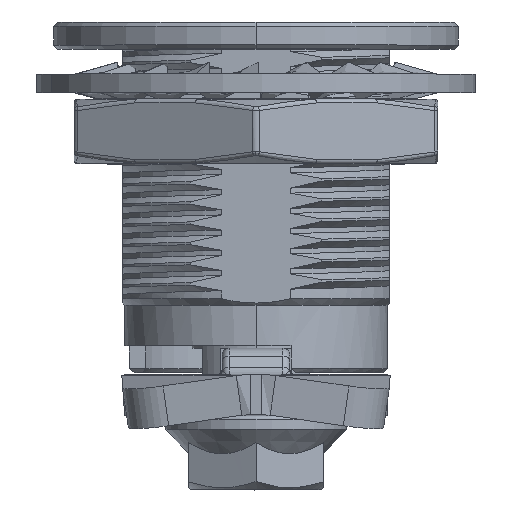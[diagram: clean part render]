
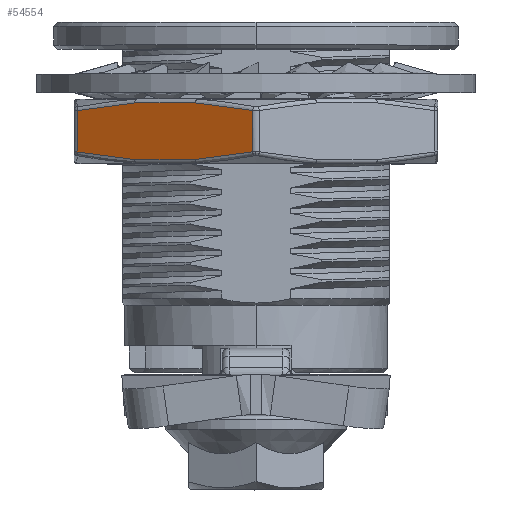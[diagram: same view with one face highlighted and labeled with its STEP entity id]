
A CAD part, top view. The second image highlights one B-rep face of the part: STEP entity #54554.
In plain terms, the highlighted planar face has unit normal (-0.5, 0, 0.866).
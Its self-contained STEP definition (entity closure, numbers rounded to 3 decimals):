
#1654 = VERTEX_POINT ( 'NONE', #48606 ) ;
#1657 = CARTESIAN_POINT ( 'NONE',  ( -10.329, -8.104, 9.625 ) ) ;
#3008 = ORIENTED_EDGE ( 'NONE', *, *, #80732, .T. ) ;
#3270 = CARTESIAN_POINT ( 'NONE',  ( -13.25, -4.563, 7.939 ) ) ;
#3556 = CARTESIAN_POINT ( 'NONE',  ( -10.329, -4.096, 9.625 ) ) ;
#3825 = CARTESIAN_POINT ( 'NONE',  ( -8.997, -8.2, 10.394 ) ) ;
#4664 = PLANE ( 'NONE',  #49375 ) ;
#7842 = LINE ( 'NONE', #22449, #30278 ) ;
#8077 = ORIENTED_EDGE ( 'NONE', *, *, #43853, .T. ) ;
#8158 = VERTEX_POINT ( 'NONE', #3825 ) ;
#9917 = CARTESIAN_POINT ( 'NONE',  ( -13.25, -7.637, 7.939 ) ) ;
#11965 = EDGE_CURVE ( 'NONE', #38511, #8158, #28182, .T. ) ;
#12445 = ORIENTED_EDGE ( 'NONE', *, *, #82434, .F. ) ;
#13256 = CARTESIAN_POINT ( 'NONE',  ( -8.997, -4., 10.394 ) ) ;
#14053 = LINE ( 'NONE', #43732, #44437 ) ;
#16923 = CARTESIAN_POINT ( 'NONE',  ( -1.754, -7.916, 14.576 ) ) ;
#18362 = CARTESIAN_POINT ( 'NONE',  ( -4.503, -8.2, 12.988 ) ) ;
#18635 = CARTESIAN_POINT ( 'NONE',  ( -13.25, -4.563, 7.939 ) ) ;
#18929 = B_SPLINE_CURVE_WITH_KNOTS ( 'NONE', 3,
 ( #18362, #77733, #16923, #76774 ),
 .UNSPECIFIED., .F., .F.,
 ( 4, 4 ),
 ( 0., 1. ),
 .UNSPECIFIED. ) ;
#19603 = CARTESIAN_POINT ( 'NONE',  ( -0.25, -7.637, 15.444 ) ) ;
#21551 = CARTESIAN_POINT ( 'NONE',  ( -1.754, -4.284, 14.576 ) ) ;
#22449 = CARTESIAN_POINT ( 'NONE',  ( -13.25, -8.596, 7.939 ) ) ;
#26626 = ORIENTED_EDGE ( 'NONE', *, *, #11965, .T. ) ;
#27284 = EDGE_CURVE ( 'NONE', #38174, #1654, #87033, .T. ) ;
#28182 = B_SPLINE_CURVE_WITH_KNOTS ( 'NONE', 3,
 ( #9917, #85350, #1657, #53728 ),
 .UNSPECIFIED., .F., .F.,
 ( 4, 4 ),
 ( 0., 1. ),
 .UNSPECIFIED. ) ;
#29924 = ORIENTED_EDGE ( 'NONE', *, *, #43495, .T. ) ;
#30278 = VECTOR ( 'NONE', #37521, 1000. ) ;
#31678 = CARTESIAN_POINT ( 'NONE',  ( -0.25, -4.563, 15.444 ) ) ;
#32264 = VERTEX_POINT ( 'NONE', #3270 ) ;
#35931 = CARTESIAN_POINT ( 'NONE',  ( -3.031, -8.2, 13.839 ) ) ;
#36138 = CARTESIAN_POINT ( 'NONE',  ( -4.503, -4., 12.988 ) ) ;
#37365 = LINE ( 'NONE', #35931, #47313 ) ;
#37521 = DIRECTION ( 'NONE',  ( 0., -1., 0. ) ) ;
#38174 = VERTEX_POINT ( 'NONE', #31678 ) ;
#38511 = VERTEX_POINT ( 'NONE', #39441 ) ;
#38550 = EDGE_CURVE ( 'NONE', #32264, #38511, #7842, .T. ) ;
#38719 = ORIENTED_EDGE ( 'NONE', *, *, #60381, .T. ) ;
#38732 = VERTEX_POINT ( 'NONE', #19603 ) ;
#39441 = CARTESIAN_POINT ( 'NONE',  ( -13.25, -7.637, 7.939 ) ) ;
#43495 = EDGE_CURVE ( 'NONE', #38732, #38174, #14053, .T. ) ;
#43732 = CARTESIAN_POINT ( 'NONE',  ( -0.25, -8.596, 15.444 ) ) ;
#43774 = CARTESIAN_POINT ( 'NONE',  ( -4.503, -8.2, 12.988 ) ) ;
#43853 = EDGE_CURVE ( 'NONE', #67450, #38732, #18929, .T. ) ;
#44437 = VECTOR ( 'NONE', #73410, 1000. ) ;
#47313 = VECTOR ( 'NONE', #58811, 1000. ) ;
#48474 = DIRECTION ( 'NONE',  ( -0.866, 0., -0.5 ) ) ;
#48606 = CARTESIAN_POINT ( 'NONE',  ( -4.503, -4., 12.988 ) ) ;
#49311 = CARTESIAN_POINT ( 'NONE',  ( -0.25, -4.563, 15.444 ) ) ;
#49375 = AXIS2_PLACEMENT_3D ( 'NONE', #92776, #55784, #48474 ) ;
#51232 = CARTESIAN_POINT ( 'NONE',  ( -3.171, -4.096, 13.757 ) ) ;
#52984 = VERTEX_POINT ( 'NONE', #13256 ) ;
#53728 = CARTESIAN_POINT ( 'NONE',  ( -8.997, -8.2, 10.394 ) ) ;
#54554 = ADVANCED_FACE ( 'NONE', ( #71327 ), #4664, .T. ) ;
#55784 = DIRECTION ( 'NONE',  ( -0.5, 0., 0.866 ) ) ;
#56101 = ORIENTED_EDGE ( 'NONE', *, *, #38550, .T. ) ;
#56124 = CARTESIAN_POINT ( 'NONE',  ( -13.51, -4., 7.788 ) ) ;
#57010 = B_SPLINE_CURVE_WITH_KNOTS ( 'NONE', 3,
 ( #79443, #3556, #85789, #18635 ),
 .UNSPECIFIED., .F., .F.,
 ( 4, 4 ),
 ( 0., 1. ),
 .UNSPECIFIED. ) ;
#58811 = DIRECTION ( 'NONE',  ( -0.866, 0., -0.5 ) ) ;
#60381 = EDGE_CURVE ( 'NONE', #1654, #52984, #80326, .T. ) ;
#60548 = EDGE_LOOP ( 'NONE', ( #26626, #12445, #8077, #29924, #90214, #38719, #3008, #56101 ) ) ;
#67450 = VERTEX_POINT ( 'NONE', #43774 ) ;
#71327 = FACE_OUTER_BOUND ( 'NONE', #60548, .T. ) ;
#73410 = DIRECTION ( 'NONE',  ( 0., 1., 0. ) ) ;
#76774 = CARTESIAN_POINT ( 'NONE',  ( -0.25, -7.637, 15.444 ) ) ;
#77733 = CARTESIAN_POINT ( 'NONE',  ( -3.171, -8.104, 13.757 ) ) ;
#79443 = CARTESIAN_POINT ( 'NONE',  ( -8.997, -4., 10.394 ) ) ;
#80326 = LINE ( 'NONE', #56124, #92654 ) ;
#80732 = EDGE_CURVE ( 'NONE', #52984, #32264, #57010, .T. ) ;
#82434 = EDGE_CURVE ( 'NONE', #67450, #8158, #37365, .T. ) ;
#85350 = CARTESIAN_POINT ( 'NONE',  ( -11.746, -7.916, 8.807 ) ) ;
#85789 = CARTESIAN_POINT ( 'NONE',  ( -11.746, -4.284, 8.807 ) ) ;
#85810 = DIRECTION ( 'NONE',  ( -0.866, 0., -0.5 ) ) ;
#87033 = B_SPLINE_CURVE_WITH_KNOTS ( 'NONE', 3,
 ( #49311, #21551, #51232, #36138 ),
 .UNSPECIFIED., .F., .F.,
 ( 4, 4 ),
 ( 0., 1. ),
 .UNSPECIFIED. ) ;
#90214 = ORIENTED_EDGE ( 'NONE', *, *, #27284, .T. ) ;
#92654 = VECTOR ( 'NONE', #85810, 1000. ) ;
#92776 = CARTESIAN_POINT ( 'NONE',  ( -13.51, -8.596, 7.788 ) ) ;
